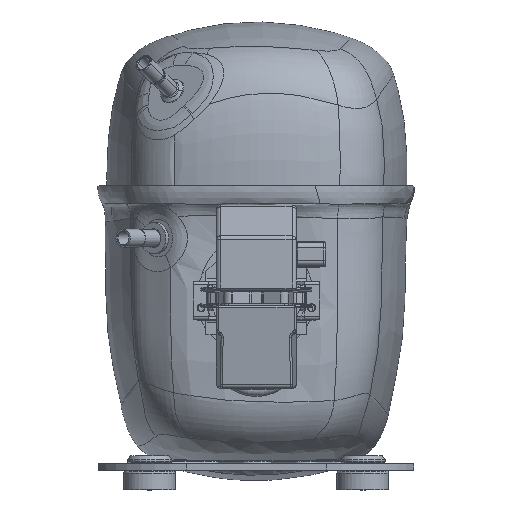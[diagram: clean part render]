
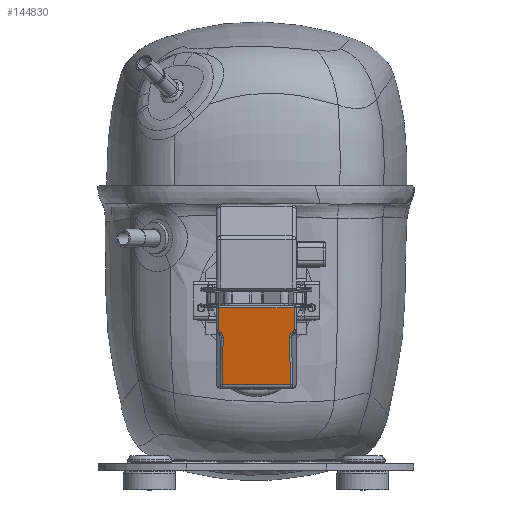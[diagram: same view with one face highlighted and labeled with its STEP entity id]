
A CAD part, top view. The second image highlights one B-rep face of the part: STEP entity #144830.
In plain terms, the highlighted planar face has unit normal (0, -0.174, 0.985) as drawn and (0, 0.985, -0.174) by its records, which use the part's own axes.
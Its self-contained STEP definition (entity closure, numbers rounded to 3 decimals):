
#139881=DIRECTION('',(0.,0.174,0.985));
#139882=VECTOR('',#139881,10.678);
#139883=CARTESIAN_POINT('',(18.,44.318,-59.574));
#139884=LINE('',#139883,#139882);
#139885=DIRECTION('',(1.,0.,0.));
#139886=VECTOR('',#139885,36.);
#139887=CARTESIAN_POINT('',(-18.,46.172,-49.058));
#139888=LINE('',#139887,#139886);
#139889=DIRECTION('',(0.,-0.174,-0.985));
#139890=VECTOR('',#139889,10.678);
#139891=CARTESIAN_POINT('',(-18.,46.172,-49.058));
#139892=LINE('',#139891,#139890);
#139893=CARTESIAN_POINT('',(-18.,44.318,-59.574));
#139894=CARTESIAN_POINT('',(-18.,44.305,
-59.648));
#139895=CARTESIAN_POINT('',(-17.984,44.279,
-59.794));
#139896=CARTESIAN_POINT('',(-17.911,44.242,
-60.006));
#139897=CARTESIAN_POINT('',(-17.793,44.208,
-60.196));
#139898=CARTESIAN_POINT('',(-17.635,44.18,
-60.356));
#139899=CARTESIAN_POINT('',(-17.513,44.166,
-60.435));
#139900=CARTESIAN_POINT('',(-17.446,44.16,
-60.469));
#139902=CARTESIAN_POINT('',(-17.446,44.16,
-60.469));
#139903=CARTESIAN_POINT('',(-17.247,44.143,
-60.568));
#139904=CARTESIAN_POINT('',(-16.88,44.101,
-60.805));
#139905=CARTESIAN_POINT('',(-16.412,44.017,
-61.283));
#139906=CARTESIAN_POINT('',(-16.066,43.917,
-61.849));
#139907=CARTESIAN_POINT('',(-15.856,43.805,
-62.485));
#139908=CARTESIAN_POINT('',(-15.814,43.728,
-62.921));
#139909=CARTESIAN_POINT('',(-15.818,43.688,
-63.145));
#139911=DIRECTION('',(-0.018,-0.174,
-0.985));
#139912=VECTOR('',#139911,22.955);
#139913=CARTESIAN_POINT('',(-15.818,43.688,
-63.145));
#139914=LINE('',#139913,#139912);
#139915=DIRECTION('',(-1.,0.,0.));
#139916=VECTOR('',#139915,32.475);
#139917=CARTESIAN_POINT('',(16.237,39.703,
-85.747));
#139918=LINE('',#139917,#139916);
#139919=DIRECTION('',(-0.018,0.174,0.985));
#139920=VECTOR('',#139919,22.955);
#139921=CARTESIAN_POINT('',(16.237,39.703,
-85.747));
#139922=LINE('',#139921,#139920);
#139923=CARTESIAN_POINT('',(15.818,43.688,
-63.145));
#139924=CARTESIAN_POINT('',(15.814,43.728,
-62.921));
#139925=CARTESIAN_POINT('',(15.856,43.805,
-62.485));
#139926=CARTESIAN_POINT('',(16.066,43.917,
-61.849));
#139927=CARTESIAN_POINT('',(16.412,44.017,
-61.283));
#139928=CARTESIAN_POINT('',(16.88,44.101,
-60.805));
#139929=CARTESIAN_POINT('',(17.247,44.143,
-60.568));
#139930=CARTESIAN_POINT('',(17.446,44.16,
-60.469));
#139932=CARTESIAN_POINT('',(17.446,44.16,
-60.469));
#139933=CARTESIAN_POINT('',(17.513,44.166,
-60.435));
#139934=CARTESIAN_POINT('',(17.635,44.18,
-60.356));
#139935=CARTESIAN_POINT('',(17.793,44.208,
-60.196));
#139936=CARTESIAN_POINT('',(17.911,44.242,
-60.006));
#139937=CARTESIAN_POINT('',(17.984,44.279,
-59.794));
#139938=CARTESIAN_POINT('',(18.,44.305,
-59.648));
#139939=CARTESIAN_POINT('',(18.,44.318,-59.574));
#140234=CARTESIAN_POINT('',(-16.237,39.703,
-85.747));
#142534=CARTESIAN_POINT('',(18.,46.172,-49.058));
#142535=VERTEX_POINT('',#142534);
#142538=CARTESIAN_POINT('',(18.,44.318,-59.574));
#142539=VERTEX_POINT('',#142538);
#142541=VERTEX_POINT('',#139932);
#142543=VERTEX_POINT('',#139923);
#142546=CARTESIAN_POINT('',(16.237,39.703,
-85.747));
#142547=VERTEX_POINT('',#142546);
#142577=VERTEX_POINT('',#140234);
#142580=CARTESIAN_POINT('',(-15.818,43.688,
-63.145));
#142581=VERTEX_POINT('',#142580);
#142583=VERTEX_POINT('',#139902);
#142585=VERTEX_POINT('',#139893);
#142588=CARTESIAN_POINT('',(-18.,46.172,-49.058));
#142589=VERTEX_POINT('',#142588);
#144806=CARTESIAN_POINT('',(-19.,39.412,-87.4));
#144807=DIRECTION('',(0.,0.985,-0.174));
#144808=DIRECTION('',(0.,0.174,0.985));
#144809=AXIS2_PLACEMENT_3D('',#144806,#144807,#144808);
#144810=PLANE('',#144809);
#144811=ORIENTED_EDGE('',*,*,#144800,.T.);
#144812=ORIENTED_EDGE('',*,*,#143589,.F.);
#144814=ORIENTED_EDGE('',*,*,#144813,.T.);
#144816=ORIENTED_EDGE('',*,*,#144815,.T.);
#144818=ORIENTED_EDGE('',*,*,#144817,.T.);
#144820=ORIENTED_EDGE('',*,*,#144819,.T.);
#144822=ORIENTED_EDGE('',*,*,#144821,.F.);
#144824=ORIENTED_EDGE('',*,*,#144823,.T.);
#144826=ORIENTED_EDGE('',*,*,#144825,.T.);
#144827=ORIENTED_EDGE('',*,*,#144786,.T.);
#144828=EDGE_LOOP('',(#144811,#144812,#144814,#144816,#144818,#144820,#144822,
#144824,#144826,#144827));
#144829=FACE_OUTER_BOUND('',#144828,.F.);
#144830=ADVANCED_FACE('',(#144829),#144810,.T.);
#139901=B_SPLINE_CURVE_WITH_KNOTS('',3,(#139893,#139894,#139895,#139896,#139897,
#139898,#139899,#139900),.UNSPECIFIED.,.F.,.F.,(4,1,1,1,1,4),(0.,0.2,0.4,
0.6,0.8,1.),.UNSPECIFIED.);
#139910=B_SPLINE_CURVE_WITH_KNOTS('',3,(#139902,#139903,#139904,#139905,#139906,
#139907,#139908,#139909),.UNSPECIFIED.,.F.,.F.,(4,1,1,1,1,4),(0.,0.2,0.4,
0.6,0.8,1.),.UNSPECIFIED.);
#139931=B_SPLINE_CURVE_WITH_KNOTS('',3,(#139923,#139924,#139925,#139926,#139927,
#139928,#139929,#139930),.UNSPECIFIED.,.F.,.F.,(4,1,1,1,1,4),(0.,0.2,0.4,
0.6,0.8,1.),.UNSPECIFIED.);
#139940=B_SPLINE_CURVE_WITH_KNOTS('',3,(#139932,#139933,#139934,#139935,#139936,
#139937,#139938,#139939),.UNSPECIFIED.,.F.,.F.,(4,1,1,1,1,4),(0.,0.2,0.4,
0.6,0.8,1.),.UNSPECIFIED.);
#143589=EDGE_CURVE('',#142589,#142535,#139888,.T.);
#144786=EDGE_CURVE('',#142541,#142539,#139940,.T.);
#144800=EDGE_CURVE('',#142539,#142535,#139884,.T.);
#144813=EDGE_CURVE('',#142589,#142585,#139892,.T.);
#144815=EDGE_CURVE('',#142585,#142583,#139901,.T.);
#144817=EDGE_CURVE('',#142583,#142581,#139910,.T.);
#144819=EDGE_CURVE('',#142581,#142577,#139914,.T.);
#144821=EDGE_CURVE('',#142547,#142577,#139918,.T.);
#144823=EDGE_CURVE('',#142547,#142543,#139922,.T.);
#144825=EDGE_CURVE('',#142543,#142541,#139931,.T.);
